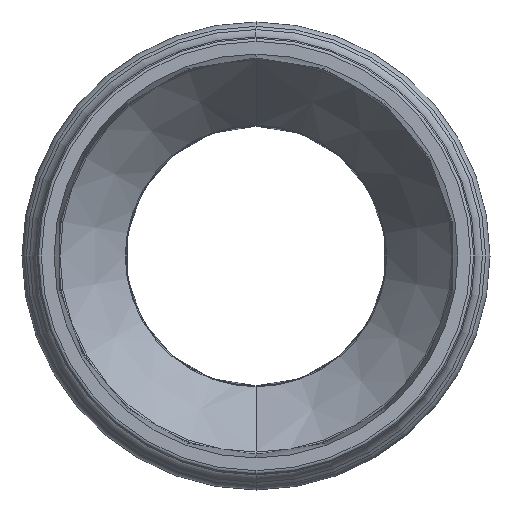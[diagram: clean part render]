
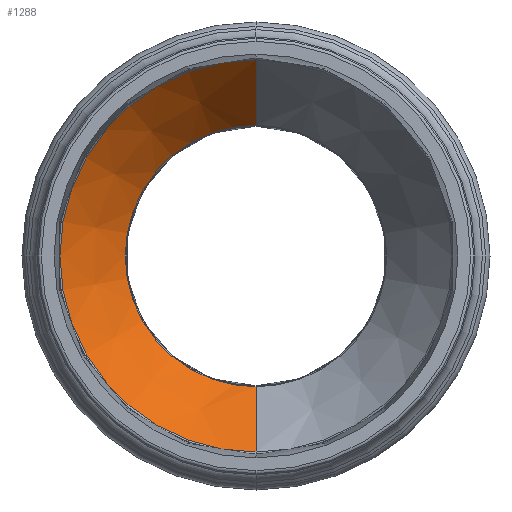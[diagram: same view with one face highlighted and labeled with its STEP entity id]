
A CAD part, left-side view. The second image highlights one B-rep face of the part: STEP entity #1288.
In plain terms, the highlighted conical face has half-angle 36.46 degrees and reference radius 38.389 mm.
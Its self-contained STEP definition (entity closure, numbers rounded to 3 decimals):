
#111=CARTESIAN_POINT('',(66.479,0.,0.));
#112=DIRECTION('',(1.,0.,0.));
#113=DIRECTION('',(0.,0.,-1.));
#114=AXIS2_PLACEMENT_3D('',#111,#112,#113);
#119=CARTESIAN_POINT('',(87.22,0.,0.));
#120=DIRECTION('',(-1.,0.,0.));
#121=DIRECTION('',(0.,0.,1.));
#122=AXIS2_PLACEMENT_3D('',#119,#120,#121);
#167=DIRECTION('',(-0.804,0.,0.594));
#168=VECTOR('',#167,25.789);
#169=CARTESIAN_POINT('',(87.22,0.,30.726));
#170=LINE('',#169,#168);
#174=DIRECTION('',(-0.804,0.,-0.594));
#175=VECTOR('',#174,25.789);
#176=CARTESIAN_POINT('',(87.22,0.,-30.726));
#177=LINE('',#176,#175);
#1057=CARTESIAN_POINT('',(66.479,0.,
-46.052));
#1059=VERTEX_POINT('',#1057);
#1063=CARTESIAN_POINT('',(66.479,0.,
46.052));
#1064=VERTEX_POINT('',#1063);
#1065=CARTESIAN_POINT('',(87.22,0.,-30.726));
#1066=VERTEX_POINT('',#1065);
#1067=CARTESIAN_POINT('',(87.22,0.,30.726));
#1068=VERTEX_POINT('',#1067);
#1274=CARTESIAN_POINT('',(76.85,0.,0.));
#1275=DIRECTION('',(-1.,0.,0.));
#1276=DIRECTION('',(0.,0.,1.));
#1277=AXIS2_PLACEMENT_3D('',#1274,#1275,#1276);
#1278=CONICAL_SURFACE('',#1277,38.389,36.46);
#1280=ORIENTED_EDGE('',*,*,#1279,.T.);
#1282=ORIENTED_EDGE('',*,*,#1281,.T.);
#1283=ORIENTED_EDGE('',*,*,#1264,.T.);
#1285=ORIENTED_EDGE('',*,*,#1284,.F.);
#1286=EDGE_LOOP('',(#1280,#1282,#1283,#1285));
#1287=FACE_OUTER_BOUND('',#1286,.F.);
#115=CIRCLE('',#114,46.052);
#123=CIRCLE('',#122,30.726);
#1264=EDGE_CURVE('',#1059,#1064,#115,.T.);
#1279=EDGE_CURVE('',#1068,#1066,#123,.T.);
#1281=EDGE_CURVE('',#1066,#1059,#177,.T.);
#1284=EDGE_CURVE('',#1068,#1064,#170,.T.);
#1288=ADVANCED_FACE('',(#1287),#1278,.F.);
